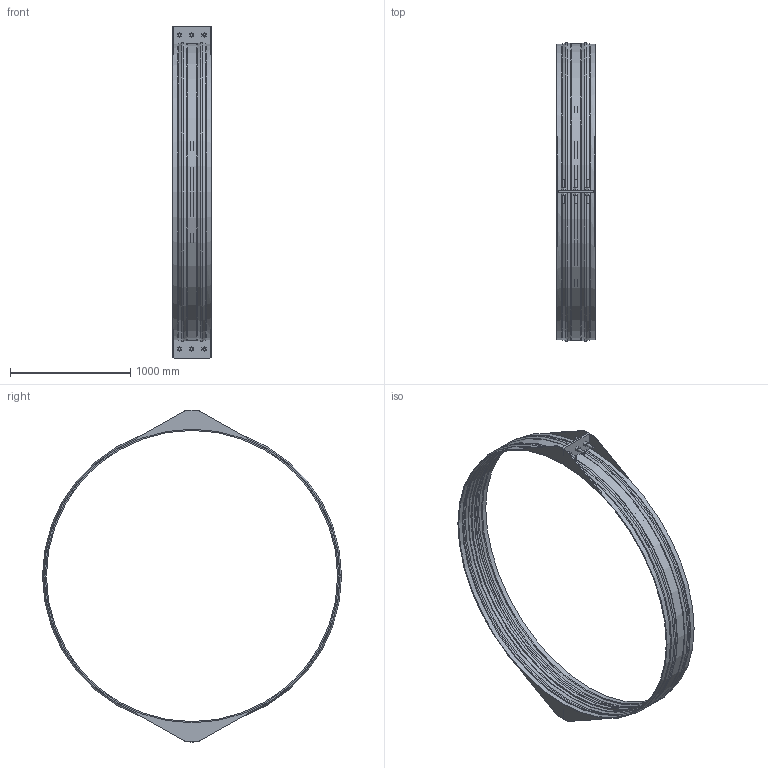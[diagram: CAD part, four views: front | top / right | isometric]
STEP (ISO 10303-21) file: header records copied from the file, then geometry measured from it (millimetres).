
FILE_DESCRIPTION(/* description */ ('VIC SS RESTRAINED COUPLING STYLE 233S (FLEX) (BRD)','CAx-IF Rec.Pracs.---Representation and Presentation of Product Manufacturing Information (PMI)---4.0---2014-10-13'),/* implementation_level */ '2;1');
FILE_NAME(/* name */ 'C:\Users\kkamble\AppData\Roaming\Autodesk\ApplicationPlugins\Back Up\Victaulic_VBSP_Coupling Flexible Restrained_Style 233S (BRD)\Victaulic_VBSP_Coupling Flexible Restrained_Style 233S (BRD)_50psi_96 (2400).stp',/* time_stamp */ '2020-09-22T18:31:46+05:00',/* author */ ('Vjadhav'),/* organization */ ('Victaulic'),/* preprocessor_version */ 'ST-DEVELOPER v17.2',/* originating_system */ 'Autodesk Inventor 2019',/* authorisation */ '');
FILE_SCHEMA (('AP242_MANAGED_MODEL_BASED_3D_ENGINEERING_MIM_LF { 1 0 10303 442 1 1 4 }'));
Length unit declared in the file: inch
Products named in the file (1): Style_233S_Type_2_50psi-96.0
Bounding box: 317.5 x 2484.14 x 2758.44 mm (x, y, z)
Volume: 30233439.2 mm3; surface area: 6173887.1 mm2
Topology: 1 solids, 1 shells, 211 faces, 557 edges, 374 vertices
Faces by surface type: plane 142, cylinder 39, torus 18, cone 12
Full cylindrical faces by diameter (mm): 22.225 x12, 2419.35 x1, 2438.4 x2, 2444.75 x2
Entity records: 7048 total; most frequent: CARTESIAN_POINT 1352, DIRECTION 1127, ORIENTED_EDGE 1114, EDGE_CURVE 557, LINE 389, VECTOR 389, VERTEX_POINT 374, AXIS2_PLACEMENT_3D 369
